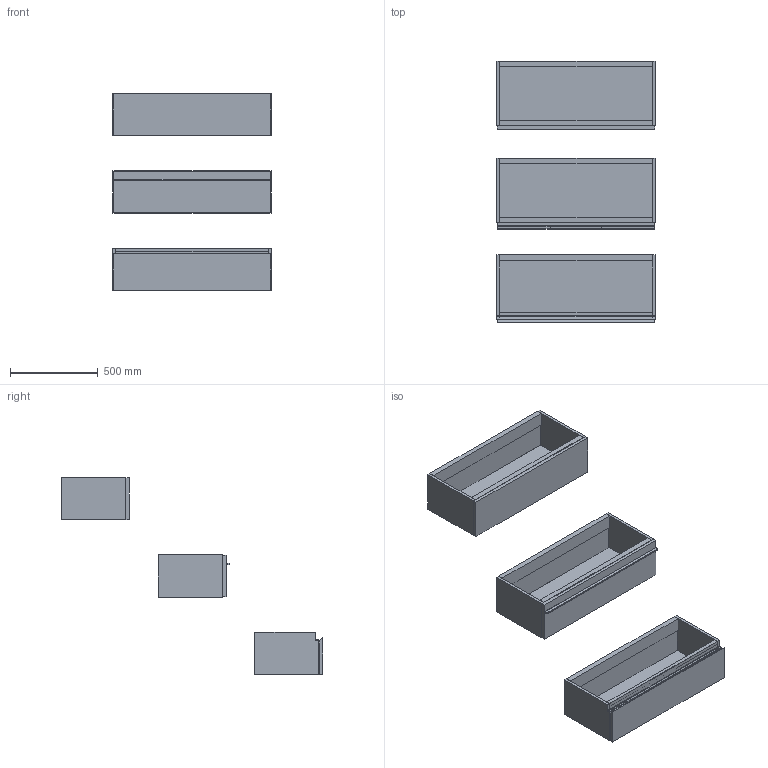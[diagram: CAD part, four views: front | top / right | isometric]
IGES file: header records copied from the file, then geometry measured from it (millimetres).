
Start section: Data from Parasolid IGES Translator 19.0.9, Copyright(c) 2006 Siemens PL M Software. All Rights Reserved.
Global section: file name: noorth-SI-H 24 D 38,8 W 90_8241.igs; native system: By Siemens PLM Incorporated; preprocessor: XPlus GENERIC/IGES 19.0.9; author: Noname; organization: Noname; date: 20200530.104055; units: metre
Bounding box: 900 x 1485.07 x 1120.01 mm (x, y, z)
Volume: 44391699.8 mm3; surface area: 6612593.7 mm2
Topology: 23 solids, 23 shells, 196 faces, 418 edges, 258 vertices
Faces by surface type: plane 152, extrusion 16, bspline 16, cylinder 12
